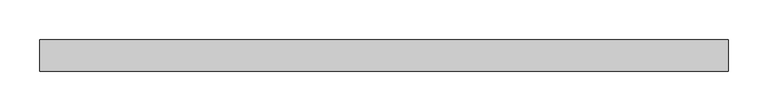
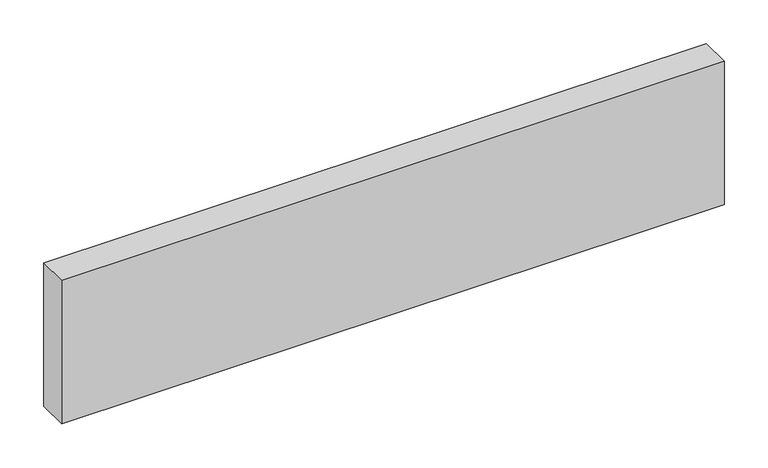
"""IFC4 building model written with IfcOpenShell, lengths in millimetres: plate geometry, Panneau système vide : Epaiss. 4cm."""

from ifc_helpers import new_model, si_unit, origin, origin_with_axes, place, context, project, spatial, polyline, outline, extrude, source, transform, mapped, element, save


def plate_68a2ba85(model_context):
    return source(origin(), model_context, "Body", "SweptSolid", [
        extrude(outline(polyline([(435.0, -20.0), (-435.0, -20.0), (-435.0, 20.0), (435.0, 20.0), (435.0, -20.0)])), origin_with_axes(), (0.0, 0.0, 1.0), 199.0),
    ])


if __name__ == "__main__":
    model = new_model("IFC4")
    model_context = context("Model", 3, world=origin())
    ifc_project = project(units=[si_unit("LENGTHUNIT", "METRE", prefix="MILLI")], contexts=[model_context])
    site = spatial("IfcSite", under=ifc_project)
    building = spatial("IfcBuilding", under=site)
    placement = place(None, origin())
    plate_shape = plate_68a2ba85(model_context)
    element("IfcPlate", 1, ObjectType="Panneau système vide : Epaiss. 4cm", at=placement, inside=building, context=model_context, shape_type="MappedRepresentation", body=[
        mapped(plate_shape, transform((0.0, 0.0, 0.0), x_axis=(1.0, 0.0, 0.0), y_axis=(0.0, 1.0, 0.0), z_axis=(0.0, 0.0, 1.0))),
    ])
    save(model, "model.ifc")
